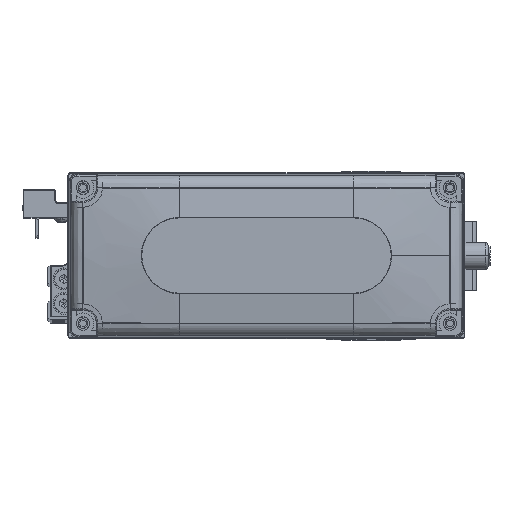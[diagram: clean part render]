
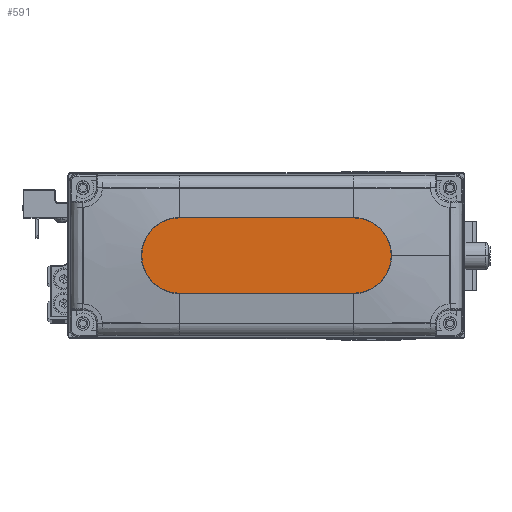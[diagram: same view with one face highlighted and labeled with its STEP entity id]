
A CAD part, top view. The second image highlights one B-rep face of the part: STEP entity #591.
In plain terms, the highlighted planar face has unit normal (0, 0, 1).
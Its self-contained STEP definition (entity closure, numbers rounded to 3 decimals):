
#566 = CARTESIAN_POINT ( 'NONE',  ( -32., 0., 35. ) ) ;
#591 = ADVANCED_FACE ( 'NONE', ( #27292 ), #41610, .T. ) ;
#663 = AXIS2_PLACEMENT_3D ( 'NONE', #9453, #23795, #38096 ) ;
#1833 = CARTESIAN_POINT ( 'NONE',  ( 32., 0., 35. ) ) ;
#3539 = EDGE_CURVE ( 'NONE', #4663, #4796, #37732, .T. ) ;
#4587 = EDGE_LOOP ( 'NONE', ( #14635, #7422, #26502, #36209, #46449 ) ) ;
#4636 = DIRECTION ( 'NONE',  ( -1., 0., 0. ) ) ;
#4663 = VERTEX_POINT ( 'NONE', #16493 ) ;
#4796 = VERTEX_POINT ( 'NONE', #21410 ) ;
#5529 = VERTEX_POINT ( 'NONE', #6432 ) ;
#6411 = CARTESIAN_POINT ( 'NONE',  ( -32., -14., 35. ) ) ;
#6432 = CARTESIAN_POINT ( 'NONE',  ( -32., 14., 35. ) ) ;
#7422 = ORIENTED_EDGE ( 'NONE', *, *, #28532, .T. ) ;
#8883 = DIRECTION ( 'NONE',  ( 1., 0., 0. ) ) ;
#9453 = CARTESIAN_POINT ( 'NONE',  ( 0., 0., 35. ) ) ;
#11004 = EDGE_CURVE ( 'NONE', #19804, #4663, #26748, .T. ) ;
#11842 = DIRECTION ( 'NONE',  ( 0., 0., 1. ) ) ;
#12976 = VERTEX_POINT ( 'NONE', #44707 ) ;
#14635 = ORIENTED_EDGE ( 'NONE', *, *, #21459, .T. ) ;
#14912 = DIRECTION ( 'NONE',  ( 0., 0., 1. ) ) ;
#15968 = VECTOR ( 'NONE', #4636, 1000. ) ;
#16195 = DIRECTION ( 'NONE',  ( 0., 0., 1. ) ) ;
#16493 = CARTESIAN_POINT ( 'NONE',  ( 32., -14., 35. ) ) ;
#17512 = AXIS2_PLACEMENT_3D ( 'NONE', #1833, #16195, #30503 ) ;
#19607 = EDGE_CURVE ( 'NONE', #4796, #12976, #42482, .T. ) ;
#19804 = VERTEX_POINT ( 'NONE', #6411 ) ;
#20229 = CIRCLE ( 'NONE', #45800, 14. ) ;
#21410 = CARTESIAN_POINT ( 'NONE',  ( 46., 0., 35. ) ) ;
#21459 = EDGE_CURVE ( 'NONE', #12976, #5529, #22510, .T. ) ;
#22271 = AXIS2_PLACEMENT_3D ( 'NONE', #44021, #11842, #26192 ) ;
#22510 = LINE ( 'NONE', #36806, #15968 ) ;
#23795 = DIRECTION ( 'NONE',  ( 0., 0., 1. ) ) ;
#26192 = DIRECTION ( 'NONE',  ( 1., 0., 0. ) ) ;
#26502 = ORIENTED_EDGE ( 'NONE', *, *, #11004, .T. ) ;
#26748 = LINE ( 'NONE', #41059, #41746 ) ;
#27292 = FACE_OUTER_BOUND ( 'NONE', #4587, .T. ) ;
#28532 = EDGE_CURVE ( 'NONE', #5529, #19804, #20229, .T. ) ;
#29226 = DIRECTION ( 'NONE',  ( 1., 0., 0. ) ) ;
#30503 = DIRECTION ( 'NONE',  ( 1., 0., 0. ) ) ;
#36209 = ORIENTED_EDGE ( 'NONE', *, *, #3539, .T. ) ;
#36806 = CARTESIAN_POINT ( 'NONE',  ( -32., 14., 35. ) ) ;
#37732 = CIRCLE ( 'NONE', #17512, 14. ) ;
#38096 = DIRECTION ( 'NONE',  ( 1., 0., 0. ) ) ;
#41059 = CARTESIAN_POINT ( 'NONE',  ( -32., -14., 35. ) ) ;
#41610 = PLANE ( 'NONE',  #663 ) ;
#41746 = VECTOR ( 'NONE', #8883, 1000. ) ;
#42482 = CIRCLE ( 'NONE', #22271, 14. ) ;
#44021 = CARTESIAN_POINT ( 'NONE',  ( 32., 0., 35. ) ) ;
#44707 = CARTESIAN_POINT ( 'NONE',  ( 32., 14., 35. ) ) ;
#45800 = AXIS2_PLACEMENT_3D ( 'NONE', #566, #14912, #29226 ) ;
#46449 = ORIENTED_EDGE ( 'NONE', *, *, #19607, .T. ) ;
